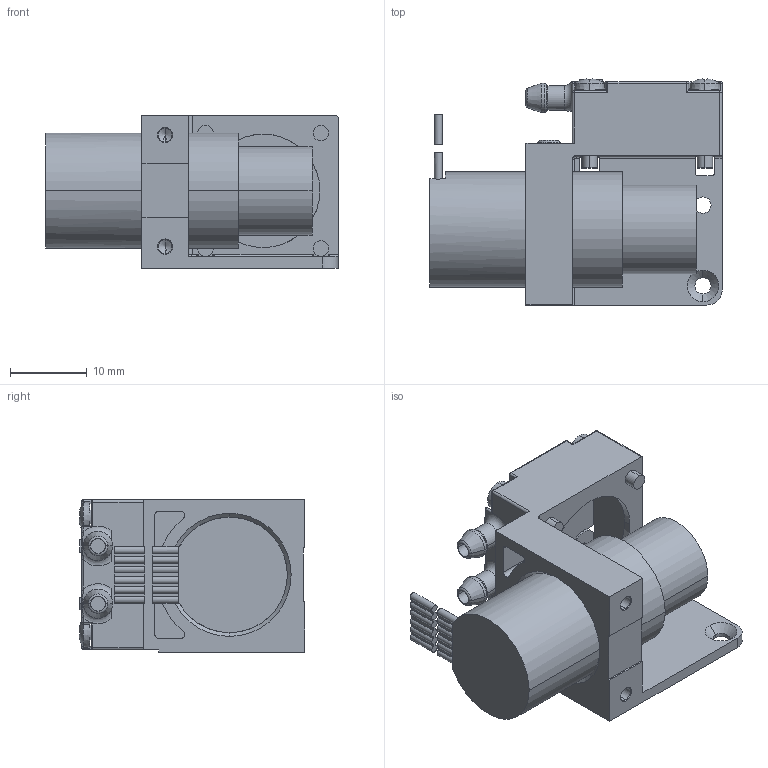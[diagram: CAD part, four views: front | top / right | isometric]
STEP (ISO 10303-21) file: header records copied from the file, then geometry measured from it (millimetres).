
FILE_DESCRIPTION((''),'2;1');
FILE_NAME('NMP09B-090727-PUMPE-ID-046305','2015-01-28T',('rsenra'),('KNF Neuberger GmbH'),'PRO/ENGINEER BY PARAMETRIC TECHNOLOGY CORPORATION, 2011310','PRO/ENGINEER BY PARAMETRIC TECHNOLOGY CORPORATION, 2011310','');
FILE_SCHEMA(('CONFIG_CONTROL_DESIGN'));
Length unit declared in the file: millimetre
Products named in the file (1): NMP09B-090727-PUMPE-ID-046305
Bounding box: 38 x 29.36 x 19.8 mm (x, y, z)
Volume: 8209.5 mm3; surface area: 6329 mm2
Topology: 2 solids, 2 shells, 386 faces, 1113 edges, 708 vertices
Faces by surface type: plane 119, cylinder 116, extrusion 80, cone 26, torus 20, sphere 16, bspline 9
Entity records: 13771 total; most frequent: CARTESIAN_POINT 3792, ORIENTED_EDGE 2194, DIRECTION 1907, EDGE_CURVE 1097, VERTEX_POINT 708, AXIS2_PLACEMENT_3D 652, VECTOR 603, LINE 523
